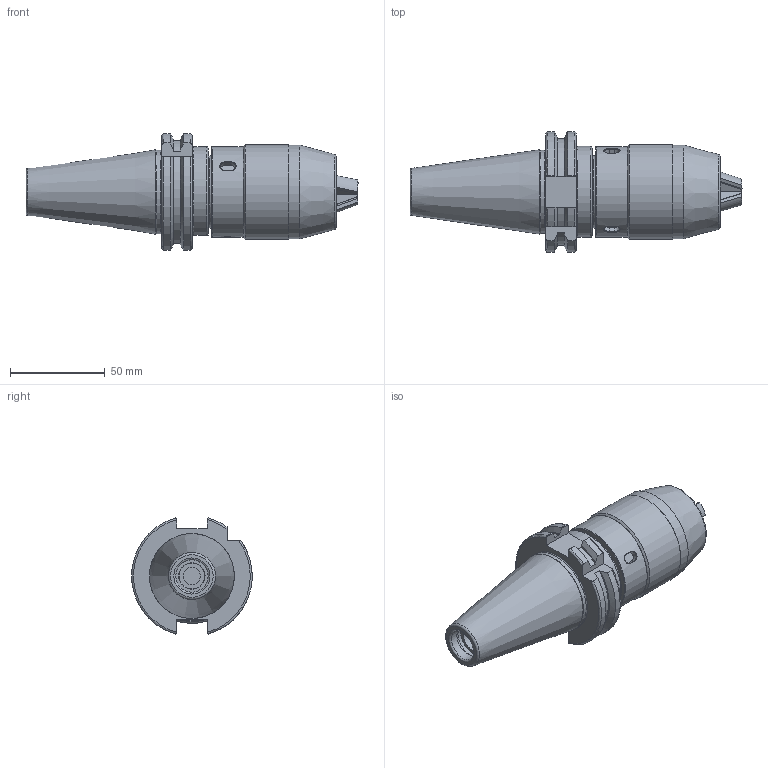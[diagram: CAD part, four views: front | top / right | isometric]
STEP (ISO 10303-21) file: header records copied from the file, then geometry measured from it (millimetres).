
FILE_DESCRIPTION(/* description */ (''),/* implementation_level */ '2;1');
FILE_NAME(/* name */ '\\SSKT-NAS\Lab-Data\연구소\DRAWING_3D\1. 인벤터\4. LAY-OUT\STANDARD\NC DRILL CHUCK-NPU\SK40\SK40-NPU13-95\SK40-NPU13-95.stp',/* time_stamp */ '2021-06-15T14:33:27+09:00',/* author */ ('KKK'),/* organization */ (''),/* preprocessor_version */ 'ST-DEVELOPER v18',/* originating_system */ 'Autodesk Inventor 2020',/* authorisation */ '');
FILE_SCHEMA (('AUTOMOTIVE_DESIGN { 1 0 10303 214 3 1 1 }'));
Length unit declared in the file: millimetre
Products named in the file (7): LO-SK40-NPU13-95; LO-SK40-NPU13-95_1; BA12713201003A; BB1271306M401A---; BB12713070101A---; BB12713080101A---; BB12213030401C
Assembly tree (8 placements, depth 3):
  LO-SK40-NPU13-95
    LO-SK40-NPU13-95_1
    BA12713201003A
      BB12213030401C  x3
      BB1271306M401A---
      BB12713070101A---
      BB12713080101A---
Bounding box: 174.93 x 63.42 x 61.22 mm (x, y, z)
Volume: 241192.2 mm3; surface area: 48661.9 mm2
Topology: 7 solids, 7 shells, 232 faces, 629 edges, 425 vertices
Faces by surface type: plane 145, cylinder 43, torus 21, cone 17, bspline 6
Full cylindrical faces by diameter (mm): 9 x1, 13.5 x1, 13.835 x1, 17 x1, 17.6 x1, 23.4 x1, 23.5 x1, 38 x1, 38.5 x1, 42 x1, 43.8 x1, 44 x1, 48 x1, 49.4 x1, 50 x1
Entity records: 7194 total; most frequent: CARTESIAN_POINT 2635, DIRECTION 930, ORIENTED_EDGE 902, EDGE_CURVE 451, AXIS2_PLACEMENT_3D 364, VERTEX_POINT 309, LINE 202, VECTOR 202
